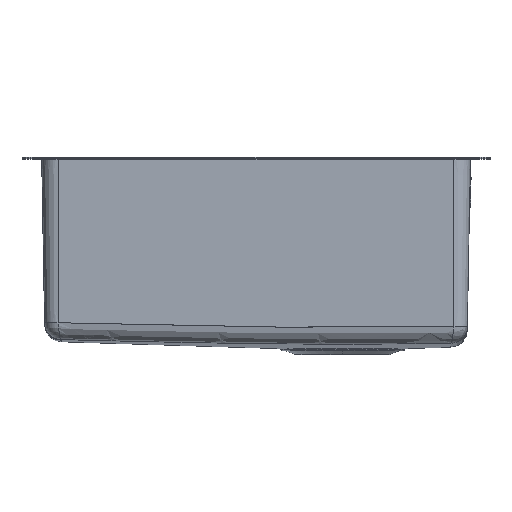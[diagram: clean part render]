
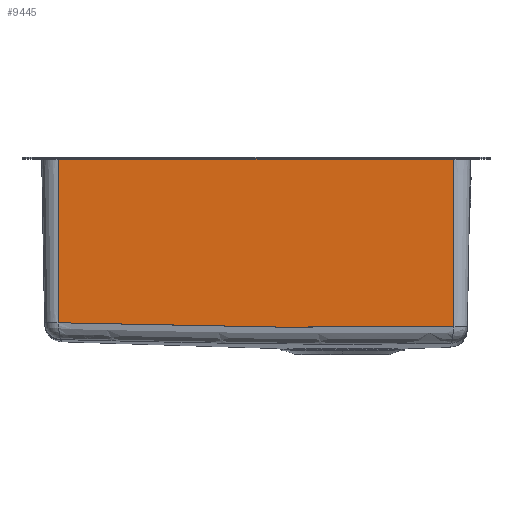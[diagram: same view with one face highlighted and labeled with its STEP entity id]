
A CAD part, top view. The second image highlights one B-rep face of the part: STEP entity #9445.
In plain terms, the highlighted planar face has unit normal (0, -0.018, 1).
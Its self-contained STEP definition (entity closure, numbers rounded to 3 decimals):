
#130 = ORIENTED_EDGE ( 'NONE', *, *, #1564, .F. ) ;
#174 = VERTEX_POINT ( 'NONE', #11275 ) ;
#191 = VERTEX_POINT ( 'NONE', #9548 ) ;
#774 = CARTESIAN_POINT ( 'NONE',  ( 61.81, -159.899, 198.709 ) ) ;
#836 = VERTEX_POINT ( 'NONE', #3115 ) ;
#856 = DIRECTION ( 'NONE',  ( 0., -1., -0.017 ) ) ;
#1484 = CARTESIAN_POINT ( 'NONE',  ( 185.5, 0., 201.5 ) ) ;
#1564 = EDGE_CURVE ( 'NONE', #174, #6531, #11359, .T. ) ;
#1600 = DIRECTION ( 'NONE',  ( 0., 1., 0.017 ) ) ;
#2857 = VECTOR ( 'NONE', #1600, 1000. ) ;
#2878 = VECTOR ( 'NONE', #3518, 1000. ) ;
#2879 = CARTESIAN_POINT ( 'NONE',  ( -123.678, -157.082, 198.758 ) ) ;
#2944 = CARTESIAN_POINT ( 'NONE',  ( 185.5, -159.054, 198.724 ) ) ;
#3115 = CARTESIAN_POINT ( 'NONE',  ( 185.5, -159.054, 198.724 ) ) ;
#3518 = DIRECTION ( 'NONE',  ( -1., 0., 0. ) ) ;
#3836 = ORIENTED_EDGE ( 'NONE', *, *, #5474, .T. ) ;
#4554 = CARTESIAN_POINT ( 'NONE',  ( -185.5, 0., 201.5 ) ) ;
#4618 = EDGE_LOOP ( 'NONE', ( #3836, #7417, #130, #8113 ) ) ;
#5474 = EDGE_CURVE ( 'NONE', #836, #191, #10338, .T. ) ;
#5512 = PLANE ( 'NONE',  #7560 ) ;
#5627 = CARTESIAN_POINT ( 'NONE',  ( -154.589, -156.33, 198.771 ) ) ;
#5691 = CARTESIAN_POINT ( 'NONE',  ( 123.653, -159.779, 198.711 ) ) ;
#5763 = B_SPLINE_CURVE_WITH_KNOTS ( 'NONE', 3,
 ( #7665, #5627, #2879, #9575, #11565, #7529, #10533, #774, #6713, #7797, #5691, #11694, #8686, #2944 ),
 .UNSPECIFIED., .F., .F.,
 ( 4, 2, 2, 2, 2, 2, 4 ),
 ( 0., 0.093, 0.186, 0.232, 0.278, 0.325, 0.371 ),
 .UNSPECIFIED. ) ;
#6531 = VERTEX_POINT ( 'NONE', #7486 ) ;
#6713 = CARTESIAN_POINT ( 'NONE',  ( 77.27, -159.93, 198.708 ) ) ;
#7417 = ORIENTED_EDGE ( 'NONE', *, *, #8339, .T. ) ;
#7486 = CARTESIAN_POINT ( 'NONE',  ( -185.5, -1.983, 201.465 ) ) ;
#7529 = CARTESIAN_POINT ( 'NONE',  ( 15.433, -159.569, 198.715 ) ) ;
#7560 = AXIS2_PLACEMENT_3D ( 'NONE', #4554, #10414, #856 ) ;
#7665 = CARTESIAN_POINT ( 'NONE',  ( -185.5, -155.537, 198.785 ) ) ;
#7797 = CARTESIAN_POINT ( 'NONE',  ( 108.192, -159.871, 198.709 ) ) ;
#8113 = ORIENTED_EDGE ( 'NONE', *, *, #11722, .T. ) ;
#8239 = CARTESIAN_POINT ( 'NONE',  ( -185.5, -1.983, 201.465 ) ) ;
#8339 = EDGE_CURVE ( 'NONE', #191, #6531, #11062, .T. ) ;
#8502 = FACE_OUTER_BOUND ( 'NONE', #4618, .T. ) ;
#8686 = CARTESIAN_POINT ( 'NONE',  ( 170.039, -159.292, 198.72 ) ) ;
#9445 = ADVANCED_FACE ( 'NONE', ( #8502 ), #5512, .T. ) ;
#9548 = CARTESIAN_POINT ( 'NONE',  ( 185.5, -1.983, 201.465 ) ) ;
#9575 = CARTESIAN_POINT ( 'NONE',  ( -61.854, -158.408, 198.735 ) ) ;
#10338 = LINE ( 'NONE', #1484, #2857 ) ;
#10414 = DIRECTION ( 'NONE',  ( 0., -0.017, 1. ) ) ;
#10459 = DIRECTION ( 'NONE',  ( 0., 1., 0.017 ) ) ;
#10533 = CARTESIAN_POINT ( 'NONE',  ( 30.892, -159.718, 198.712 ) ) ;
#10678 = VECTOR ( 'NONE', #10459, 1000. ) ;
#11062 = LINE ( 'NONE', #8239, #2878 ) ;
#11275 = CARTESIAN_POINT ( 'NONE',  ( -185.5, -155.537, 198.785 ) ) ;
#11359 = LINE ( 'NONE', #11494, #10678 ) ;
#11494 = CARTESIAN_POINT ( 'NONE',  ( -185.5, 0., 201.5 ) ) ;
#11565 = CARTESIAN_POINT ( 'NONE',  ( -30.94, -158.982, 198.725 ) ) ;
#11694 = CARTESIAN_POINT ( 'NONE',  ( 154.578, -159.49, 198.716 ) ) ;
#11722 = EDGE_CURVE ( 'NONE', #174, #836, #5763, .T. ) ;
